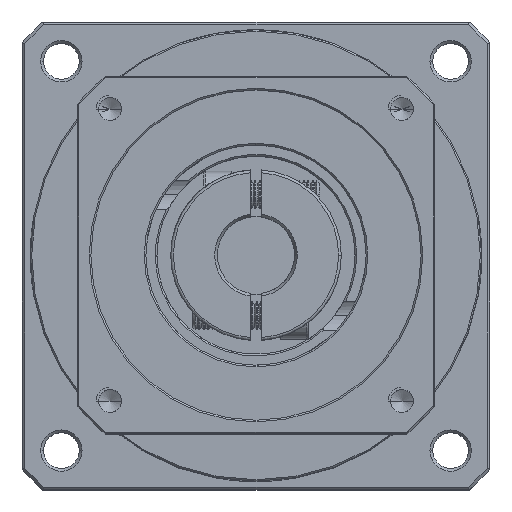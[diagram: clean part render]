
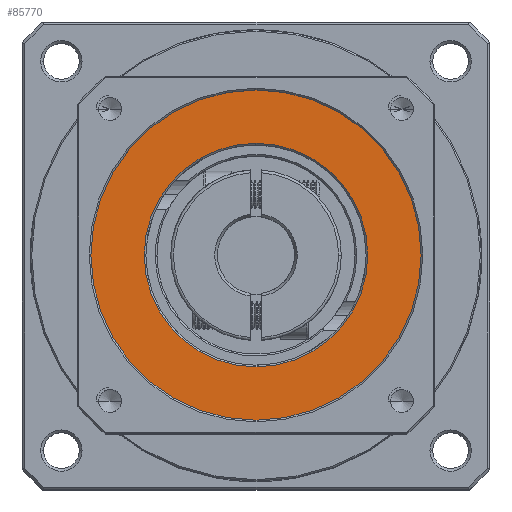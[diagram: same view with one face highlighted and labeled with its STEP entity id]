
A CAD part, top view. The second image highlights one B-rep face of the part: STEP entity #85770.
In plain terms, the highlighted planar face has unit normal (0, 0, 1).
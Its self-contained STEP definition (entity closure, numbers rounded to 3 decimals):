
#3221 = DIRECTION ( 'NONE',  ( 1., 0., 0. ) ) ;
#5602 = EDGE_LOOP ( 'NONE', ( #26853, #59012 ) ) ;
#5640 = VERTEX_POINT ( 'NONE', #73374 ) ;
#8849 = FACE_OUTER_BOUND ( 'NONE', #110831, .T. ) ;
#10544 = EDGE_CURVE ( 'NONE', #127279, #5640, #26207, .T. ) ;
#14025 = AXIS2_PLACEMENT_3D ( 'NONE', #88627, #37773, #28581 ) ;
#19993 = DIRECTION ( 'NONE',  ( 1., 0., 0. ) ) ;
#23078 = FACE_BOUND ( 'NONE', #5602, .T. ) ;
#23633 = CARTESIAN_POINT ( 'NONE',  ( -64.055, 52.979, -19.316 ) ) ;
#26207 = CIRCLE ( 'NONE', #128194, 30. ) ;
#26853 = ORIENTED_EDGE ( 'NONE', *, *, #96619, .T. ) ;
#27242 = EDGE_CURVE ( 'NONE', #5640, #127279, #53732, .T. ) ;
#28581 = DIRECTION ( 'NONE',  ( 1., 0., 0. ) ) ;
#30576 = DIRECTION ( 'NONE',  ( 0., 0., 1. ) ) ;
#31369 = CARTESIAN_POINT ( 'NONE',  ( -23.455, 52.979, -19.316 ) ) ;
#34328 = AXIS2_PLACEMENT_3D ( 'NONE', #64137, #113381, #3221 ) ;
#36919 = CARTESIAN_POINT ( 'NONE',  ( -43.755, 52.979, -19.316 ) ) ;
#37773 = DIRECTION ( 'NONE',  ( 0., 0., 1. ) ) ;
#41040 = CARTESIAN_POINT ( 'NONE',  ( -43.755, 52.979, -19.316 ) ) ;
#49556 = ORIENTED_EDGE ( 'NONE', *, *, #27242, .T. ) ;
#52040 = VERTEX_POINT ( 'NONE', #23633 ) ;
#53732 = CIRCLE ( 'NONE', #86949, 30. ) ;
#59012 = ORIENTED_EDGE ( 'NONE', *, *, #93979, .T. ) ;
#64137 = CARTESIAN_POINT ( 'NONE',  ( -43.755, 52.979, -19.316 ) ) ;
#73374 = CARTESIAN_POINT ( 'NONE',  ( -73.755, 52.979, -19.316 ) ) ;
#78480 = PLANE ( 'NONE',  #14025 ) ;
#84969 = CIRCLE ( 'NONE', #95248, 20.3 ) ;
#85154 = DIRECTION ( 'NONE',  ( 0., 0., -1. ) ) ;
#85770 = ADVANCED_FACE ( 'NONE', ( #23078, #8849 ), #78480, .T. ) ;
#86949 = AXIS2_PLACEMENT_3D ( 'NONE', #41040, #30576, #19993 ) ;
#88627 = CARTESIAN_POINT ( 'NONE',  ( -43.755, 52.979, -19.316 ) ) ;
#89260 = CIRCLE ( 'NONE', #34328, 20.3 ) ;
#93979 = EDGE_CURVE ( 'NONE', #52040, #103313, #84969, .T. ) ;
#95248 = AXIS2_PLACEMENT_3D ( 'NONE', #36919, #85154, #115481 ) ;
#96619 = EDGE_CURVE ( 'NONE', #103313, #52040, #89260, .T. ) ;
#96752 = ORIENTED_EDGE ( 'NONE', *, *, #10544, .T. ) ;
#101901 = CARTESIAN_POINT ( 'NONE',  ( -13.755, 52.979, -19.316 ) ) ;
#103313 = VERTEX_POINT ( 'NONE', #31369 ) ;
#110831 = EDGE_LOOP ( 'NONE', ( #96752, #49556 ) ) ;
#113381 = DIRECTION ( 'NONE',  ( 0., 0., -1. ) ) ;
#115481 = DIRECTION ( 'NONE',  ( 1., 0., 0. ) ) ;
#116283 = DIRECTION ( 'NONE',  ( 0., 0., 1. ) ) ;
#118071 = CARTESIAN_POINT ( 'NONE',  ( -43.755, 52.979, -19.316 ) ) ;
#127279 = VERTEX_POINT ( 'NONE', #101901 ) ;
#128194 = AXIS2_PLACEMENT_3D ( 'NONE', #118071, #116283, #128209 ) ;
#128209 = DIRECTION ( 'NONE',  ( 1., 0., 0. ) ) ;
